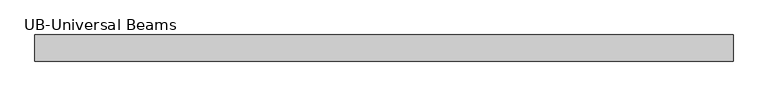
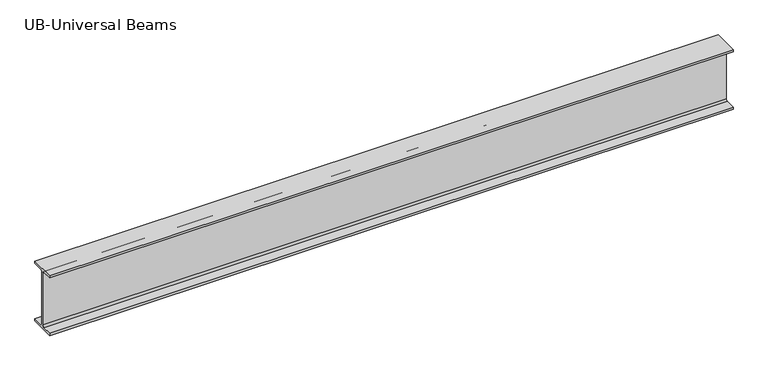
"""IFC4 building model written with IfcOpenShell, lengths in millimetres: beam geometry."""

from ifc_helpers import new_model, si_unit, point, frame, frame_2d, origin, place, context, project, spatial, polyline, circle_curve, trimmed, segment, composite_curve, outline, extrude, source, transform, mapped, element, save


def ub_universal_beams_55dbae19(model_context):
    return source(origin(), model_context, "Body", "SweptSolid", [
        extrude(outline(composite_curve([segment(polyline([(61.7, -141.5), (61.7, -152.2), (-61.7, -152.2), (-61.7, -141.5), (-12.45, -141.5)]), True, "CONTINUOUS"), segment(trimmed(circle_curve(frame_2d((-12.45, -132.6)), 8.9), [point((-12.45, -141.5))], [point((-3.55, -132.6))], True, "CARTESIAN"), True, "CONTINUOUS"), segment(polyline([(-3.55, -132.6), (-3.55, 132.6)]), True, "CONTINUOUS"), segment(trimmed(circle_curve(frame_2d((-12.45, 132.6)), 8.9), [point((-3.55, 132.6))], [point((-12.45, 141.5))], True, "CARTESIAN"), True, "CONTINUOUS"), segment(polyline([(-12.45, 141.5), (-61.7, 141.5), (-61.7, 152.2), (61.7, 152.2), (61.7, 141.5), (12.45, 141.5)]), True, "CONTINUOUS"), segment(trimmed(circle_curve(frame_2d((12.45, 132.6)), 8.9), [point((12.45, 141.5))], [point((3.55, 132.6))], True, "CARTESIAN"), True, "CONTINUOUS"), segment(polyline([(3.55, 132.6), (3.55, -132.6)]), True, "CONTINUOUS"), segment(trimmed(circle_curve(frame_2d((12.45, -132.6)), 8.9), [point((3.55, -132.6))], [point((12.45, -141.5))], True, "CARTESIAN"), True, "CONTINUOUS"), segment(polyline([(12.45, -141.5), (61.7, -141.5)]), True, "CONTINUOUS")], self_intersect=False)), frame((-1659.4, 0.0, 0.0), z_axis=(1.0, 0.0, 0.0), x_axis=(0.0, 1.0, 0.0)), (0.0, 0.0, 1.0), 3296.1),
    ])


if __name__ == "__main__":
    model = new_model("IFC4")
    model_context = context("Model", 3, world=origin())
    ifc_project = project(units=[si_unit("LENGTHUNIT", "METRE", prefix="MILLI")], contexts=[model_context])
    site = spatial("IfcSite", under=ifc_project)
    building = spatial("IfcBuilding", under=site)
    placement = place(None, origin())
    ub_universal_beams_shape = ub_universal_beams_55dbae19(model_context)
    element("IfcBeam", 1, ObjectType="UB-Universal Beams : UB 12\" x 5\" x 1 1/2\"", at=placement, inside=building, context=model_context, shape_type="MappedRepresentation", body=[
        mapped(ub_universal_beams_shape, transform((0.0, 0.0, 0.0), x_axis=(1.0, 0.0, 0.0), y_axis=(0.0, 1.0, 0.0), z_axis=(0.0, 0.0, 1.0))),
    ])
    save(model, "model.ifc")
